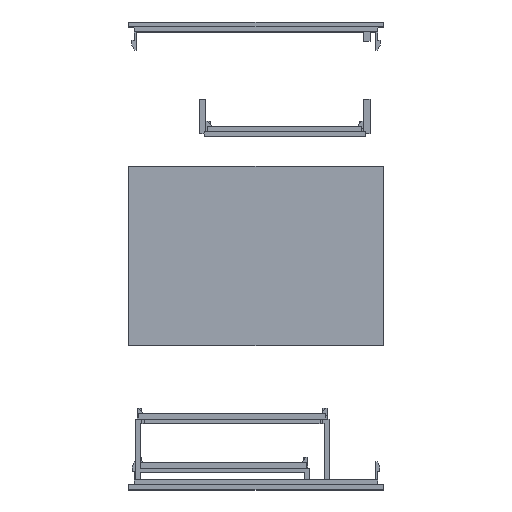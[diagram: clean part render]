
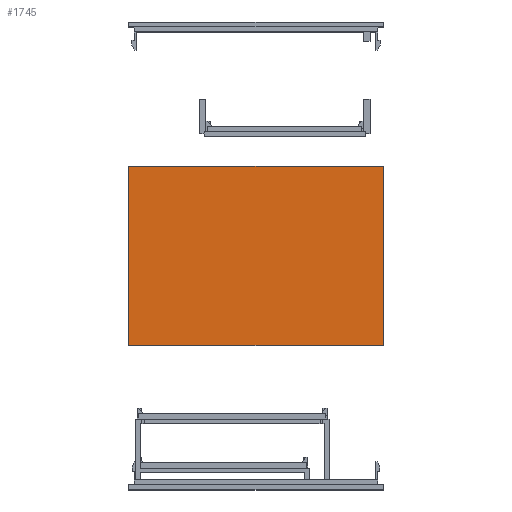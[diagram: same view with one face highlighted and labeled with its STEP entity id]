
A CAD part, top view. The second image highlights one B-rep face of the part: STEP entity #1745.
In plain terms, the highlighted planar face has unit normal (0, 0, 1).
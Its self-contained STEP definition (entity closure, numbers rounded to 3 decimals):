
#54 = VERTEX_POINT('',#55);
#55 = CARTESIAN_POINT('',(0.,3.,100.));
#62 = PLANE('',#63);
#63 = AXIS2_PLACEMENT_3D('',#64,#65,#66);
#64 = CARTESIAN_POINT('',(0.,3.,0.));
#65 = DIRECTION('',(1.,0.,0.));
#66 = DIRECTION('',(0.,0.,1.));
#74 = PLANE('',#75);
#75 = AXIS2_PLACEMENT_3D('',#76,#77,#78);
#76 = CARTESIAN_POINT('',(0.,3.,0.));
#77 = DIRECTION('',(0.,1.,0.));
#78 = DIRECTION('',(0.,0.,1.));
#115 = VERTEX_POINT('',#116);
#116 = CARTESIAN_POINT('',(0.,112.,100.));
#130 = PLANE('',#131);
#131 = AXIS2_PLACEMENT_3D('',#132,#133,#134);
#132 = CARTESIAN_POINT('',(0.,112.,0.));
#133 = DIRECTION('',(0.,1.,0.));
#134 = DIRECTION('',(0.,0.,1.));
#142 = EDGE_CURVE('',#54,#115,#143,.T.);
#143 = SURFACE_CURVE('',#144,(#148,#155),.PCURVE_S1.);
#144 = LINE('',#145,#146);
#145 = CARTESIAN_POINT('',(0.,3.,100.));
#146 = VECTOR('',#147,1.);
#147 = DIRECTION('',(0.,1.,0.));
#148 = PCURVE('',#62,#149);
#149 = DEFINITIONAL_REPRESENTATION('',(#150),#154);
#150 = LINE('',#151,#152);
#151 = CARTESIAN_POINT('',(100.,0.));
#152 = VECTOR('',#153,1.);
#153 = DIRECTION('',(0.,-1.));
#154 = ( GEOMETRIC_REPRESENTATION_CONTEXT(2) 
PARAMETRIC_REPRESENTATION_CONTEXT() REPRESENTATION_CONTEXT('2D SPACE',''
  ) );
#155 = PCURVE('',#156,#161);
#156 = PLANE('',#157);
#157 = AXIS2_PLACEMENT_3D('',#158,#159,#160);
#158 = CARTESIAN_POINT('',(0.,3.,100.));
#159 = DIRECTION('',(0.,0.,1.));
#160 = DIRECTION('',(1.,0.,0.));
#161 = DEFINITIONAL_REPRESENTATION('',(#162),#166);
#162 = LINE('',#163,#164);
#163 = CARTESIAN_POINT('',(0.,0.));
#164 = VECTOR('',#165,1.);
#165 = DIRECTION('',(0.,1.));
#166 = ( GEOMETRIC_REPRESENTATION_CONTEXT(2) 
PARAMETRIC_REPRESENTATION_CONTEXT() REPRESENTATION_CONTEXT('2D SPACE',''
  ) );
#1583 = EDGE_CURVE('',#54,#1584,#1586,.T.);
#1584 = VERTEX_POINT('',#1585);
#1585 = CARTESIAN_POINT('',(155.,3.,100.));
#1586 = SURFACE_CURVE('',#1587,(#1591,#1598),.PCURVE_S1.);
#1587 = LINE('',#1588,#1589);
#1588 = CARTESIAN_POINT('',(0.,3.,100.));
#1589 = VECTOR('',#1590,1.);
#1590 = DIRECTION('',(1.,0.,0.));
#1591 = PCURVE('',#74,#1592);
#1592 = DEFINITIONAL_REPRESENTATION('',(#1593),#1597);
#1593 = LINE('',#1594,#1595);
#1594 = CARTESIAN_POINT('',(100.,0.));
#1595 = VECTOR('',#1596,1.);
#1596 = DIRECTION('',(0.,1.));
#1597 = ( GEOMETRIC_REPRESENTATION_CONTEXT(2) 
PARAMETRIC_REPRESENTATION_CONTEXT() REPRESENTATION_CONTEXT('2D SPACE',''
  ) );
#1598 = PCURVE('',#156,#1599);
#1599 = DEFINITIONAL_REPRESENTATION('',(#1600),#1604);
#1600 = LINE('',#1601,#1602);
#1601 = CARTESIAN_POINT('',(0.,0.));
#1602 = VECTOR('',#1603,1.);
#1603 = DIRECTION('',(1.,0.));
#1604 = ( GEOMETRIC_REPRESENTATION_CONTEXT(2) 
PARAMETRIC_REPRESENTATION_CONTEXT() REPRESENTATION_CONTEXT('2D SPACE',''
  ) );
#1620 = PLANE('',#1621);
#1621 = AXIS2_PLACEMENT_3D('',#1622,#1623,#1624);
#1622 = CARTESIAN_POINT('',(155.,3.,0.));
#1623 = DIRECTION('',(1.,0.,0.));
#1624 = DIRECTION('',(0.,0.,1.));
#1745 = ADVANCED_FACE('',(#1746),#156,.T.);
#1746 = FACE_BOUND('',#1747,.T.);
#1747 = EDGE_LOOP('',(#1748,#1749,#1750,#1773));
#1748 = ORIENTED_EDGE('',*,*,#142,.F.);
#1749 = ORIENTED_EDGE('',*,*,#1583,.T.);
#1750 = ORIENTED_EDGE('',*,*,#1751,.T.);
#1751 = EDGE_CURVE('',#1584,#1752,#1754,.T.);
#1752 = VERTEX_POINT('',#1753);
#1753 = CARTESIAN_POINT('',(155.,112.,100.));
#1754 = SURFACE_CURVE('',#1755,(#1759,#1766),.PCURVE_S1.);
#1755 = LINE('',#1756,#1757);
#1756 = CARTESIAN_POINT('',(155.,3.,100.));
#1757 = VECTOR('',#1758,1.);
#1758 = DIRECTION('',(0.,1.,0.));
#1759 = PCURVE('',#156,#1760);
#1760 = DEFINITIONAL_REPRESENTATION('',(#1761),#1765);
#1761 = LINE('',#1762,#1763);
#1762 = CARTESIAN_POINT('',(155.,0.));
#1763 = VECTOR('',#1764,1.);
#1764 = DIRECTION('',(0.,1.));
#1765 = ( GEOMETRIC_REPRESENTATION_CONTEXT(2) 
PARAMETRIC_REPRESENTATION_CONTEXT() REPRESENTATION_CONTEXT('2D SPACE',''
  ) );
#1766 = PCURVE('',#1620,#1767);
#1767 = DEFINITIONAL_REPRESENTATION('',(#1768),#1772);
#1768 = LINE('',#1769,#1770);
#1769 = CARTESIAN_POINT('',(100.,0.));
#1770 = VECTOR('',#1771,1.);
#1771 = DIRECTION('',(0.,-1.));
#1772 = ( GEOMETRIC_REPRESENTATION_CONTEXT(2) 
PARAMETRIC_REPRESENTATION_CONTEXT() REPRESENTATION_CONTEXT('2D SPACE',''
  ) );
#1773 = ORIENTED_EDGE('',*,*,#1774,.F.);
#1774 = EDGE_CURVE('',#115,#1752,#1775,.T.);
#1775 = SURFACE_CURVE('',#1776,(#1780,#1787),.PCURVE_S1.);
#1776 = LINE('',#1777,#1778);
#1777 = CARTESIAN_POINT('',(0.,112.,100.));
#1778 = VECTOR('',#1779,1.);
#1779 = DIRECTION('',(1.,0.,0.));
#1780 = PCURVE('',#156,#1781);
#1781 = DEFINITIONAL_REPRESENTATION('',(#1782),#1786);
#1782 = LINE('',#1783,#1784);
#1783 = CARTESIAN_POINT('',(0.,109.));
#1784 = VECTOR('',#1785,1.);
#1785 = DIRECTION('',(1.,0.));
#1786 = ( GEOMETRIC_REPRESENTATION_CONTEXT(2) 
PARAMETRIC_REPRESENTATION_CONTEXT() REPRESENTATION_CONTEXT('2D SPACE',''
  ) );
#1787 = PCURVE('',#130,#1788);
#1788 = DEFINITIONAL_REPRESENTATION('',(#1789),#1793);
#1789 = LINE('',#1790,#1791);
#1790 = CARTESIAN_POINT('',(100.,0.));
#1791 = VECTOR('',#1792,1.);
#1792 = DIRECTION('',(0.,1.));
#1793 = ( GEOMETRIC_REPRESENTATION_CONTEXT(2) 
PARAMETRIC_REPRESENTATION_CONTEXT() REPRESENTATION_CONTEXT('2D SPACE',''
  ) );
